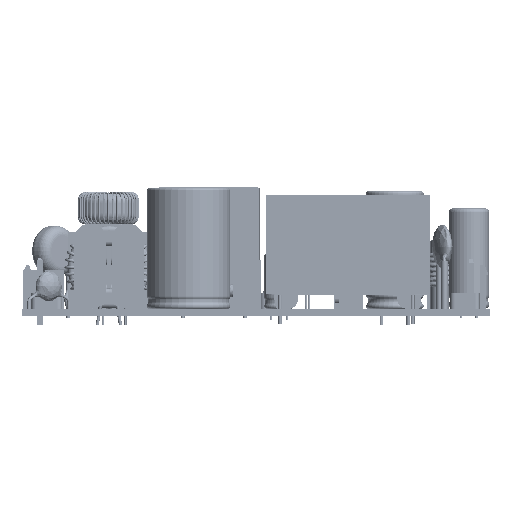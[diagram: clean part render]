
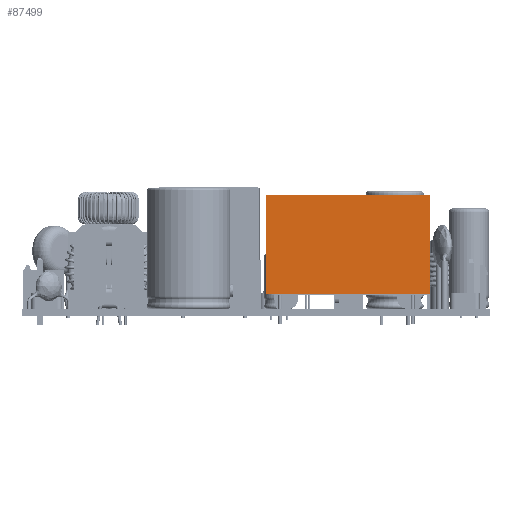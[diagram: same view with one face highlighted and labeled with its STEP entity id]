
A CAD part, front view. The second image highlights one B-rep face of the part: STEP entity #87499.
In plain terms, the highlighted planar face has unit normal (0, -1, 0) as drawn and (0, 0, 1) by its records, which use the part's own axes.
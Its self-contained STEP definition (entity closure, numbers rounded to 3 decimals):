
#1110 = AXIS2_PLACEMENT_3D ( 'NONE', #144461, #9780, #64586 ) ;
#6821 = CARTESIAN_POINT ( 'NONE',  ( 17.8, 25.8, 17.85 ) ) ;
#9780 = DIRECTION ( 'NONE',  ( 0., 0., -1. ) ) ;
#12579 = CARTESIAN_POINT ( 'NONE',  ( 17.8, 4.3, 17.85 ) ) ;
#15973 = ORIENTED_EDGE ( 'NONE', *, *, #150573, .T. ) ;
#20075 = VERTEX_POINT ( 'NONE', #12579 ) ;
#20562 = CARTESIAN_POINT ( 'NONE',  ( -17.8, 4.3, 17.85 ) ) ;
#22720 = CARTESIAN_POINT ( 'NONE',  ( -17.8, 25.8, 17.85 ) ) ;
#25271 = VECTOR ( 'NONE', #153678, 1000. ) ;
#26534 = VECTOR ( 'NONE', #173439, 1000. ) ;
#33811 = EDGE_CURVE ( 'NONE', #35576, #20075, #132418, .T. ) ;
#35576 = VERTEX_POINT ( 'NONE', #20562 ) ;
#36105 = CARTESIAN_POINT ( 'NONE',  ( 17.8, 25.8, 17.85 ) ) ;
#44072 = CARTESIAN_POINT ( 'NONE',  ( 17.8, 76.217, 17.85 ) ) ;
#48221 = EDGE_LOOP ( 'NONE', ( #119562, #15973, #99217, #74855 ) ) ;
#56653 = LINE ( 'NONE', #44072, #149825 ) ;
#64586 = DIRECTION ( 'NONE',  ( -1., 0., 0. ) ) ;
#74855 = ORIENTED_EDGE ( 'NONE', *, *, #143729, .F. ) ;
#75117 = VERTEX_POINT ( 'NONE', #6821 ) ;
#87499 = ADVANCED_FACE ( 'NONE', ( #90623 ), #158819, .F. ) ;
#90623 = FACE_OUTER_BOUND ( 'NONE', #48221, .T. ) ;
#90988 = VECTOR ( 'NONE', #106389, 1000. ) ;
#99217 = ORIENTED_EDGE ( 'NONE', *, *, #33811, .T. ) ;
#99961 = VERTEX_POINT ( 'NONE', #22720 ) ;
#106389 = DIRECTION ( 'NONE',  ( 1., 0., 0. ) ) ;
#115105 = LINE ( 'NONE', #36105, #26534 ) ;
#119562 = ORIENTED_EDGE ( 'NONE', *, *, #158055, .F. ) ;
#132418 = LINE ( 'NONE', #174677, #90988 ) ;
#143729 = EDGE_CURVE ( 'NONE', #75117, #20075, #56653, .T. ) ;
#144461 = CARTESIAN_POINT ( 'NONE',  ( 17.8, 76.217, 17.85 ) ) ;
#149825 = VECTOR ( 'NONE', #154448, 1000. ) ;
#150573 = EDGE_CURVE ( 'NONE', #99961, #35576, #168054, .T. ) ;
#153678 = DIRECTION ( 'NONE',  ( 0., -1., 0. ) ) ;
#154448 = DIRECTION ( 'NONE',  ( 0., -1., 0. ) ) ;
#158055 = EDGE_CURVE ( 'NONE', #99961, #75117, #115105, .T. ) ;
#158819 = PLANE ( 'NONE',  #1110 ) ;
#168054 = LINE ( 'NONE', #168957, #25271 ) ;
#168957 = CARTESIAN_POINT ( 'NONE',  ( -17.8, 76.217, 17.85 ) ) ;
#173439 = DIRECTION ( 'NONE',  ( 1., 0., 0. ) ) ;
#174677 = CARTESIAN_POINT ( 'NONE',  ( 17.8, 4.3, 17.85 ) ) ;
